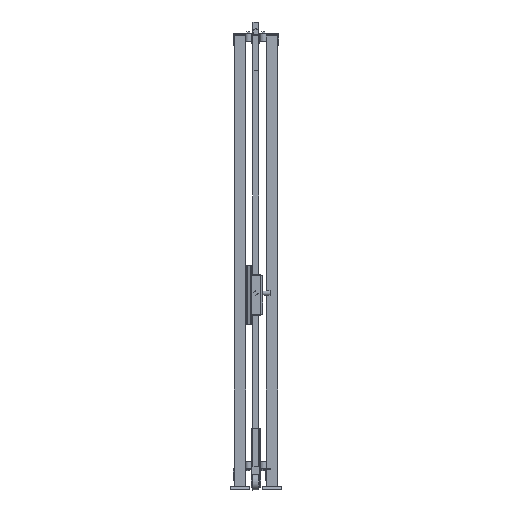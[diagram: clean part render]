
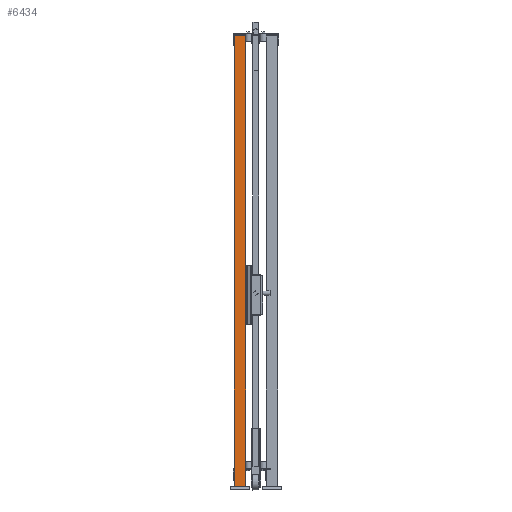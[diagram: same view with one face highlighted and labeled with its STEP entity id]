
A CAD part, left-side view. The second image highlights one B-rep face of the part: STEP entity #6434.
In plain terms, the highlighted planar face has unit normal (-1, 0, 0) as drawn and (0, 1, 0) by its records, which use the part's own axes.
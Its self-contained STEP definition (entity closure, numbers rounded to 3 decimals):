
#612=FACE_OUTER_BOUND('',#1132,.T.);
#1132=EDGE_LOOP('',(#4006,#4007,#4008,#4009));
#1718=VERTEX_POINT('',#14594);
#1719=VERTEX_POINT('',#14596);
#1721=VERTEX_POINT('',#14602);
#1724=VERTEX_POINT('',#14607);
#2584=EDGE_CURVE('',#1718,#1719,#7867,.T.);
#2590=EDGE_CURVE('',#1724,#1721,#7873,.T.);
#2593=EDGE_CURVE('',#1719,#1724,#7876,.T.);
#2594=EDGE_CURVE('',#1718,#1721,#7877,.T.);
#4006=ORIENTED_EDGE('',*,*,#2594,.T.);
#4007=ORIENTED_EDGE('',*,*,#2590,.F.);
#4008=ORIENTED_EDGE('',*,*,#2593,.F.);
#4009=ORIENTED_EDGE('',*,*,#2584,.F.);
#5984=PLANE('',#10041);
#6434=ADVANCED_FACE('',(#612),#5984,.F.);
#7867=LINE('',#14597,#9098);
#7873=LINE('',#14609,#9104);
#7876=LINE('',#14614,#9107);
#7877=LINE('',#14616,#9108);
#9098=VECTOR('',#11341,1.);
#9104=VECTOR('',#11349,1.);
#9107=VECTOR('',#11356,1.);
#9108=VECTOR('',#11359,1.);
#10041=AXIS2_PLACEMENT_3D('',#14615,#11357,#11358);
#11341=DIRECTION('',(-1.,0.,0.));
#11349=DIRECTION('',(1.,0.,0.));
#11356=DIRECTION('',(0.,0.,-1.));
#11357=DIRECTION('center_axis',(0.,-1.,0.));
#11358=DIRECTION('ref_axis',(0.,0.,-1.));
#11359=DIRECTION('',(0.,0.,-1.));
#14594=CARTESIAN_POINT('',(30.,30.,2320.));
#14596=CARTESIAN_POINT('',(-30.,30.,2320.));
#14597=CARTESIAN_POINT('',(0.,30.,2320.));
#14602=CARTESIAN_POINT('',(30.,30.,20.));
#14607=CARTESIAN_POINT('',(-30.,30.,20.));
#14609=CARTESIAN_POINT('',(0.,30.,20.));
#14614=CARTESIAN_POINT('',(-30.,30.,1170.));
#14615=CARTESIAN_POINT('Origin',(0.,30.,
1170.));
#14616=CARTESIAN_POINT('',(30.,30.,1170.));
